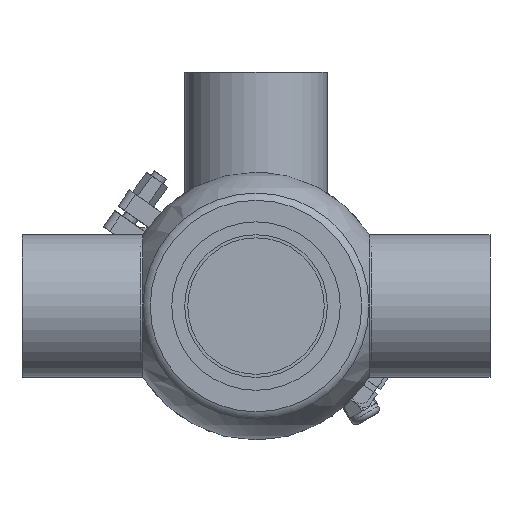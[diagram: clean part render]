
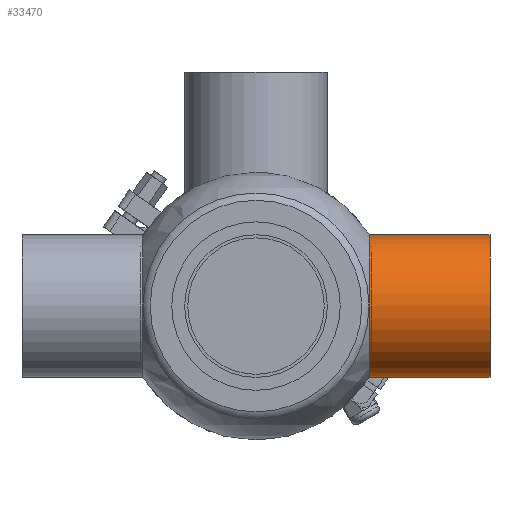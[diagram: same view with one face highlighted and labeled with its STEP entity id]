
A CAD part, front view. The second image highlights one B-rep face of the part: STEP entity #33470.
In plain terms, the highlighted cylindrical face has radius 38.1 mm (diameter 76.2 mm), a full revolution.
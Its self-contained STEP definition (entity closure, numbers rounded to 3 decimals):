
#4114 = EDGE_CURVE ( 'NONE', #25732, #25732, #28235, .T. ) ;
#10230 = DIRECTION ( 'NONE',  ( 0., 0., 1. ) ) ;
#11432 = CARTESIAN_POINT ( 'NONE',  ( 125., 0., 38.1 ) ) ;
#16239 = DIRECTION ( 'NONE',  ( 0., 0., 1. ) ) ;
#17466 = CARTESIAN_POINT ( 'NONE',  ( 125., 0., 0. ) ) ;
#18862 = DIRECTION ( 'NONE',  ( -1., 0., 0. ) ) ;
#20492 = AXIS2_PLACEMENT_3D ( 'NONE', #52613, #18862, #52907 ) ;
#24615 = ORIENTED_EDGE ( 'NONE', *, *, #4114, .T. ) ;
#25124 = DIRECTION ( 'NONE',  ( 1., 0., 0. ) ) ;
#25732 = VERTEX_POINT ( 'NONE', #11432 ) ;
#28235 = CIRCLE ( 'NONE', #49977, 38.1 ) ;
#32459 = ORIENTED_EDGE ( 'NONE', *, *, #45170, .T. ) ;
#33470 = ADVANCED_FACE ( 'NONE', ( #48240, #57283 ), #47644, .T. ) ;
#34201 = CARTESIAN_POINT ( 'NONE',  ( 60.503, 0., 38.1 ) ) ;
#38634 = CIRCLE ( 'NONE', #45535, 38.1 ) ;
#39539 = EDGE_LOOP ( 'NONE', ( #24615 ) ) ;
#39806 = DIRECTION ( 'NONE',  ( -1., 0., 0. ) ) ;
#43686 = CARTESIAN_POINT ( 'NONE',  ( 60.503, 0., 0. ) ) ;
#45170 = EDGE_CURVE ( 'NONE', #57132, #57132, #38634, .T. ) ;
#45535 = AXIS2_PLACEMENT_3D ( 'NONE', #43686, #25124, #10230 ) ;
#47644 = CYLINDRICAL_SURFACE ( 'NONE', #20492, 38.1 ) ;
#48240 = FACE_OUTER_BOUND ( 'NONE', #49958, .T. ) ;
#49958 = EDGE_LOOP ( 'NONE', ( #32459 ) ) ;
#49977 = AXIS2_PLACEMENT_3D ( 'NONE', #17466, #39806, #16239 ) ;
#52613 = CARTESIAN_POINT ( 'NONE',  ( 0., 0., 0. ) ) ;
#52907 = DIRECTION ( 'NONE',  ( 0., 0., 1. ) ) ;
#57132 = VERTEX_POINT ( 'NONE', #34201 ) ;
#57283 = FACE_OUTER_BOUND ( 'NONE', #39539, .T. ) ;
